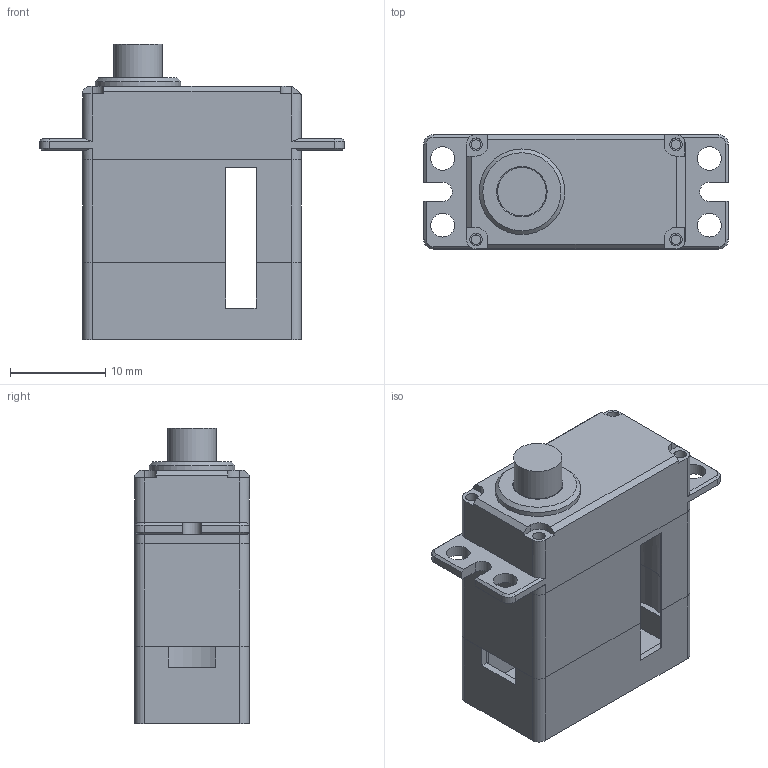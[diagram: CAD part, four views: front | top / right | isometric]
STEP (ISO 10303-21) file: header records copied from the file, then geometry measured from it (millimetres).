
FILE_DESCRIPTION(/* description */ (''),/* implementation_level */ '2;1');
FILE_NAME(/* name */ 'DS215MG',/* time_stamp */ '2018-04-08T09:06:41+08:00',/* author */ (''),/* organization */ (''),/* preprocessor_version */ 'ST-DEVELOPER v9',/* originating_system */ 'UGS - NX 4.0',/* authorisation */ '');
FILE_SCHEMA (('CONFIG_CONTROL_DESIGN'));
Length unit declared in the file: millimetre
Products named in the file (1): Admi25E1udn1
Bounding box: 32 x 12 x 31 mm (x, y, z)
Volume: 2292.9 mm3; surface area: 5623.9 mm2
Topology: 4 solids, 4 shells, 323 faces, 866 edges, 563 vertices
Faces by surface type: plane 148, cylinder 135, cone 40
Full cylindrical faces by diameter (mm): 1 x4, 1.3 x8, 2.5 x4, 4 x1, 4.42 x1, 5.1 x2, 6.4 x1, 7.99 x1, 9 x1
Entity records: 10080 total; most frequent: DIRECTION 1788, CARTESIAN_POINT 1787, ORIENTED_EDGE 1652, EDGE_CURVE 826, AXIS2_PLACEMENT_3D 660, VERTEX_POINT 549, LINE 468, VECTOR 468
